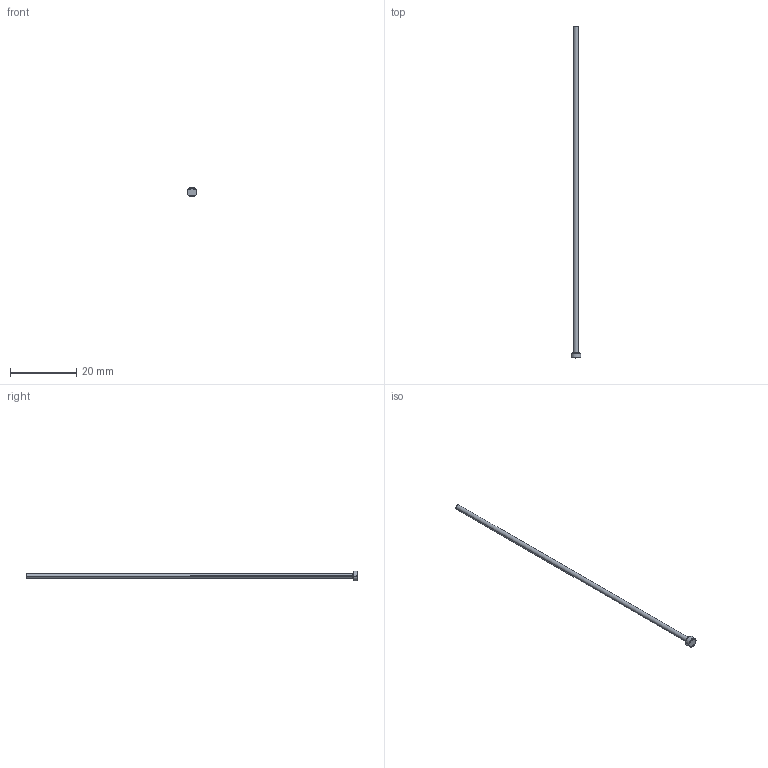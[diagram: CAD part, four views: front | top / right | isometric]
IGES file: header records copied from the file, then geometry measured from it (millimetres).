
Start section: SolidWorks IGES file using analytic representation for surfaces
Global section: file name: C:\Users\User\Downloads\Matripeça 31-08 tar\PB - PINO EXTRATOR TIPO _B_ (CATÁLOGO)\PB01,5\PB01,5100.IGS; native system: SolidWorks 2024; preprocessor: SolidWorks 2024; author: User; date: 260901.135711; units: millimetre
Bounding box: 3 x 100 x 3 mm (x, y, z)
Surface area: 494.4 mm2 (no closed solid volume)
Topology: 0 solids, 0 shells, 392 faces, 2597 edges, 2597 vertices
Faces by surface type: bspline 378, revolution 14
